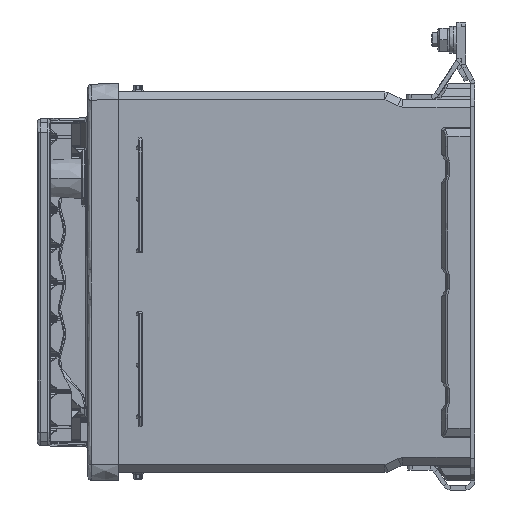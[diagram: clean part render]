
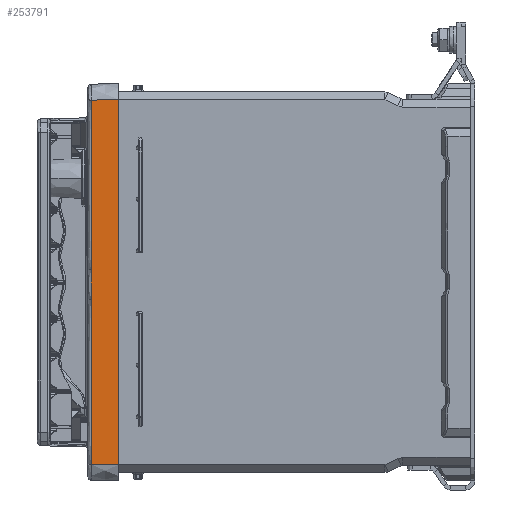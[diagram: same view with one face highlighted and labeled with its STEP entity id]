
A CAD part, left-side view. The second image highlights one B-rep face of the part: STEP entity #253791.
In plain terms, the highlighted planar face has unit normal (-1, 0.018, 0).
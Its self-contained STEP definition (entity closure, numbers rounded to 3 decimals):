
#1879 = VERTEX_POINT ( 'NONE', #233270 ) ;
#3895 = B_SPLINE_CURVE_WITH_KNOTS ( 'NONE', 3,
 ( #535227, #95443, #139452, #7292 ),
 .UNSPECIFIED., .F., .F.,
 ( 4, 4 ),
 ( 0., 1. ),
 .UNSPECIFIED. ) ;
#6843 = PLANE ( 'NONE',  #448682 ) ;
#7292 = CARTESIAN_POINT ( 'NONE',  ( -175.29, 24.726, -7.5 ) ) ;
#9013 = CARTESIAN_POINT ( 'NONE',  ( -175.29, 24.726, -7.5 ) ) ;
#20710 = VERTEX_POINT ( 'NONE', #9013 ) ;
#24214 = VERTEX_POINT ( 'NONE', #500993 ) ;
#29460 = EDGE_CURVE ( 'NONE', #389311, #450248, #384782, .T. ) ;
#46756 = CARTESIAN_POINT ( 'NONE',  ( -175.5, 12.7, 26.667 ) ) ;
#50887 = CARTESIAN_POINT ( 'NONE',  ( -175.395, 18.713, 0. ) ) ;
#70438 = ORIENTED_EDGE ( 'NONE', *, *, #29460, .T. ) ;
#78591 = CARTESIAN_POINT ( 'NONE',  ( -175.29, 24.726, 30.264 ) ) ;
#95443 = CARTESIAN_POINT ( 'NONE',  ( -175.29, 24.726, -55.688 ) ) ;
#109444 = CARTESIAN_POINT ( 'NONE',  ( -175.29, 24.726, -7.5 ) ) ;
#124310 = CARTESIAN_POINT ( 'NONE',  ( -175.5, 12.7, 80.001 ) ) ;
#128807 = ORIENTED_EDGE ( 'NONE', *, *, #400550, .T. ) ;
#139452 = CARTESIAN_POINT ( 'NONE',  ( -175.29, 24.726, -31.593 ) ) ;
#143281 = B_SPLINE_CURVE_WITH_KNOTS ( 'NONE', 3,
 ( #403258, #217752, #547900, #506814 ),
 .UNSPECIFIED., .F., .F.,
 ( 4, 4 ),
 ( 0., 1. ),
 .UNSPECIFIED. ) ;
#147083 = EDGE_CURVE ( 'NONE', #450248, #24214, #203975, .T. ) ;
#151341 = FACE_OUTER_BOUND ( 'NONE', #503033, .T. ) ;
#176020 = CARTESIAN_POINT ( 'NONE',  ( -175.5, 12.7, -80.001 ) ) ;
#203975 = B_SPLINE_CURVE_WITH_KNOTS ( 'NONE', 3,
 ( #492473, #235825, #392047, #377427 ),
 .UNSPECIFIED., .F., .F.,
 ( 4, 4 ),
 ( 0., 1. ),
 .UNSPECIFIED. ) ;
#217752 = CARTESIAN_POINT ( 'NONE',  ( -175.36, 20.718, -79.861 ) ) ;
#228174 = EDGE_CURVE ( 'NONE', #261849, #20710, #3895, .T. ) ;
#233270 = CARTESIAN_POINT ( 'NONE',  ( -175.29, 24.726, 5.5 ) ) ;
#235825 = CARTESIAN_POINT ( 'NONE',  ( -175.43, 16.709, 79.931 ) ) ;
#253791 = ADVANCED_FACE ( 'NONE', ( #151341 ), #6843, .T. ) ;
#261849 = VERTEX_POINT ( 'NONE', #436392 ) ;
#285479 = CARTESIAN_POINT ( 'NONE',  ( -175.5, 12.7, -26.667 ) ) ;
#301221 = CARTESIAN_POINT ( 'NONE',  ( -175.29, 24.726, 1.167 ) ) ;
#343641 = ORIENTED_EDGE ( 'NONE', *, *, #147083, .T. ) ;
#351435 = ORIENTED_EDGE ( 'NONE', *, *, #548418, .F. ) ;
#367502 = CARTESIAN_POINT ( 'NONE',  ( -175.5, 12.7, -80.001 ) ) ;
#367605 = CARTESIAN_POINT ( 'NONE',  ( -175.29, 24.726, 55.027 ) ) ;
#377427 = CARTESIAN_POINT ( 'NONE',  ( -175.291, 24.726, 79.791 ) ) ;
#384782 = B_SPLINE_CURVE_WITH_KNOTS ( 'NONE', 3,
 ( #367502, #285479, #46756, #467869 ),
 .UNSPECIFIED., .F., .F.,
 ( 4, 4 ),
 ( 0., 1. ),
 .UNSPECIFIED. ) ;
#389311 = VERTEX_POINT ( 'NONE', #176020 ) ;
#392047 = CARTESIAN_POINT ( 'NONE',  ( -175.36, 20.718, 79.861 ) ) ;
#400550 = EDGE_CURVE ( 'NONE', #24214, #1879, #527411, .T. ) ;
#403258 = CARTESIAN_POINT ( 'NONE',  ( -175.291, 24.726, -79.791 ) ) ;
#412546 = ORIENTED_EDGE ( 'NONE', *, *, #565299, .T. ) ;
#436392 = CARTESIAN_POINT ( 'NONE',  ( -175.291, 24.726, -79.791 ) ) ;
#448682 = AXIS2_PLACEMENT_3D ( 'NONE', #50887, #528524, #537857 ) ;
#450248 = VERTEX_POINT ( 'NONE', #124310 ) ;
#467869 = CARTESIAN_POINT ( 'NONE',  ( -175.5, 12.7, 80.001 ) ) ;
#473509 = B_SPLINE_CURVE_WITH_KNOTS ( 'NONE', 3,
 ( #109444, #590312, #301221, #536901 ),
 .UNSPECIFIED., .F., .F.,
 ( 4, 4 ),
 ( 0., 1. ),
 .UNSPECIFIED. ) ;
#492473 = CARTESIAN_POINT ( 'NONE',  ( -175.5, 12.7, 80.001 ) ) ;
#500993 = CARTESIAN_POINT ( 'NONE',  ( -175.291, 24.726, 79.791 ) ) ;
#503033 = EDGE_LOOP ( 'NONE', ( #351435, #613463, #412546, #70438, #343641, #128807 ) ) ;
#506814 = CARTESIAN_POINT ( 'NONE',  ( -175.5, 12.7, -80.001 ) ) ;
#508984 = CARTESIAN_POINT ( 'NONE',  ( -175.291, 24.726, 79.791 ) ) ;
#515204 = CARTESIAN_POINT ( 'NONE',  ( -175.29, 24.726, 5.5 ) ) ;
#527411 = B_SPLINE_CURVE_WITH_KNOTS ( 'NONE', 3,
 ( #508984, #367605, #78591, #515204 ),
 .UNSPECIFIED., .F., .F.,
 ( 4, 4 ),
 ( 0., 1. ),
 .UNSPECIFIED. ) ;
#528524 = DIRECTION ( 'NONE',  ( -1., 0.017, 0. ) ) ;
#535227 = CARTESIAN_POINT ( 'NONE',  ( -175.291, 24.726, -79.791 ) ) ;
#536901 = CARTESIAN_POINT ( 'NONE',  ( -175.29, 24.726, 5.5 ) ) ;
#537857 = DIRECTION ( 'NONE',  ( 0., 0., 1. ) ) ;
#547900 = CARTESIAN_POINT ( 'NONE',  ( -175.43, 16.709, -79.931 ) ) ;
#548418 = EDGE_CURVE ( 'NONE', #20710, #1879, #473509, .T. ) ;
#565299 = EDGE_CURVE ( 'NONE', #261849, #389311, #143281, .T. ) ;
#590312 = CARTESIAN_POINT ( 'NONE',  ( -175.29, 24.726, -3.167 ) ) ;
#613463 = ORIENTED_EDGE ( 'NONE', *, *, #228174, .F. ) ;
